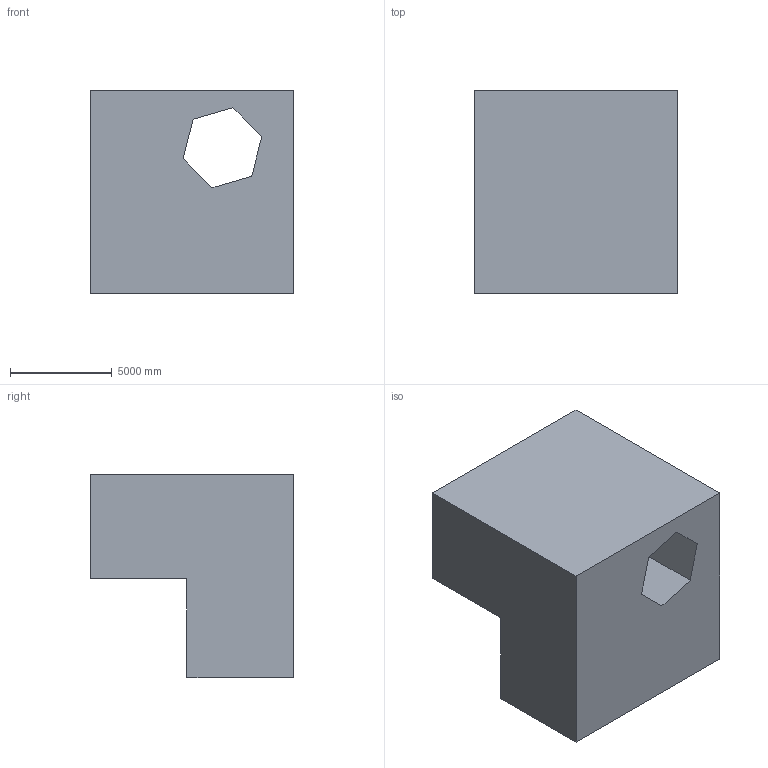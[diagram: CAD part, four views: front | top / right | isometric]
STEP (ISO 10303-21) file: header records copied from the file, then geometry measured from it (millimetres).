
FILE_DESCRIPTION (( 'STEP AP203' ), '1' );
FILE_NAME ('106.STEP', '2022-09-05T15:33:01', ( 'user' ), ( '' ), 'SwSTEP 2.0', 'SolidWorks 2021', '' );
FILE_SCHEMA (( 'CONFIG_CONTROL_DESIGN' ));
Length unit declared in the file: centimetre
Products named in the file (1): 106
Bounding box: 10000 x 10000 x 10000 mm (x, y, z)
Volume: 662796175212 mm3; surface area: 653761773 mm2
Topology: 1 solids, 1 shells, 14 faces, 36 edges, 24 vertices
Faces by surface type: plane 14
Entity records: 501 total; most frequent: CARTESIAN_POINT 75, ORIENTED_EDGE 72, DIRECTION 66, LINE 36, VECTOR 36, EDGE_CURVE 36, VERTEX_POINT 24, EDGE_LOOP 16
